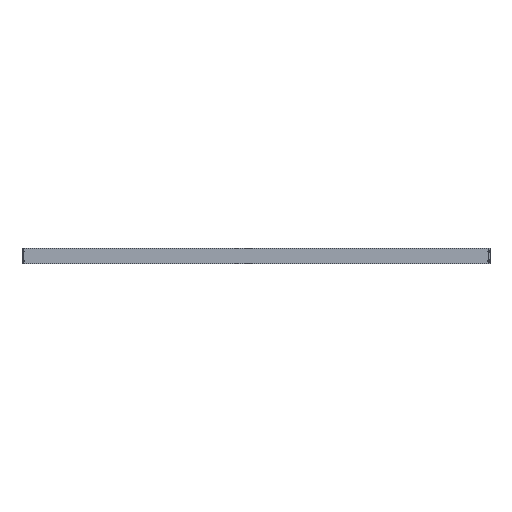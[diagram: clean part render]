
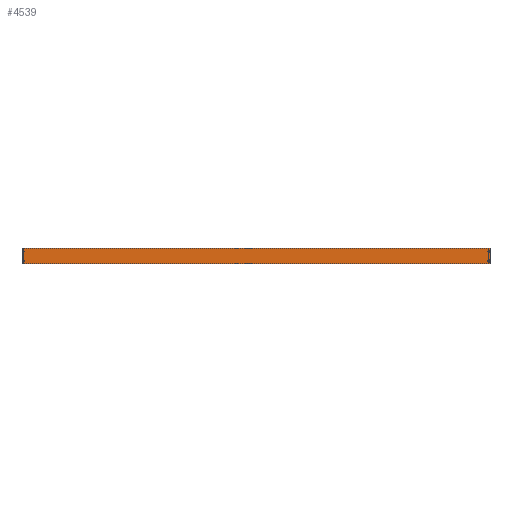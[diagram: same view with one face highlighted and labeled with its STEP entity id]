
A CAD part, front view. The second image highlights one B-rep face of the part: STEP entity #4539.
In plain terms, the highlighted planar face has unit normal (0, -1, 0) as drawn and (0, 0, 1) by its records, which use the part's own axes.
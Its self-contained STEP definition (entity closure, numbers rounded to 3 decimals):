
#491=PLANE('',#4961);
#639=LINE('',#6398,#1191);
#642=LINE('',#6404,#1194);
#643=LINE('',#6406,#1195);
#644=LINE('',#6408,#1196);
#1191=VECTOR('',#5472,1000.);
#1194=VECTOR('',#5477,1000.);
#1195=VECTOR('',#5478,1000.);
#1196=VECTOR('',#5479,1000.);
#2014=ORIENTED_EDGE('',*,*,#3050,.T.);
#2015=ORIENTED_EDGE('',*,*,#3051,.F.);
#2016=ORIENTED_EDGE('',*,*,#3052,.F.);
#2017=ORIENTED_EDGE('',*,*,#3047,.T.);
#3047=EDGE_CURVE('',#3600,#3599,#639,.T.);
#3050=EDGE_CURVE('',#3599,#3602,#642,.T.);
#3051=EDGE_CURVE('',#3603,#3602,#643,.T.);
#3052=EDGE_CURVE('',#3600,#3603,#644,.T.);
#3599=VERTEX_POINT('',#6397);
#3600=VERTEX_POINT('',#6399);
#3602=VERTEX_POINT('',#6405);
#3603=VERTEX_POINT('',#6407);
#3947=EDGE_LOOP('',(#2014,#2015,#2016,#2017));
#4227=FACE_BOUND('',#3947,.T.);
#4539=ADVANCED_FACE('',(#4227),#491,.F.);
#4961=AXIS2_PLACEMENT_3D('',#6403,#5475,#5476);
#5472=DIRECTION('',(-1.,0.,0.));
#5475=DIRECTION('',(0.,0.,-1.));
#5476=DIRECTION('',(-1.,0.,0.));
#5477=DIRECTION('',(0.,-1.,0.));
#5478=DIRECTION('',(-1.,0.,0.));
#5479=DIRECTION('',(0.,-1.,0.));
#6397=CARTESIAN_POINT('',(-450.,0.,500.));
#6398=CARTESIAN_POINT('',(450.,0.,500.));
#6399=CARTESIAN_POINT('',(450.,0.,500.));
#6403=CARTESIAN_POINT('',(450.,0.,500.));
#6404=CARTESIAN_POINT('',(-450.,0.,500.));
#6405=CARTESIAN_POINT('',(-450.,-30.,500.));
#6406=CARTESIAN_POINT('',(450.,-30.,500.));
#6407=CARTESIAN_POINT('',(450.,-30.,500.));
#6408=CARTESIAN_POINT('',(450.,0.,500.));
